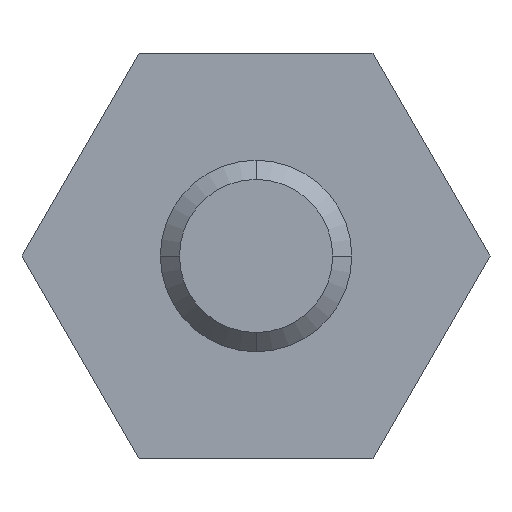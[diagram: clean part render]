
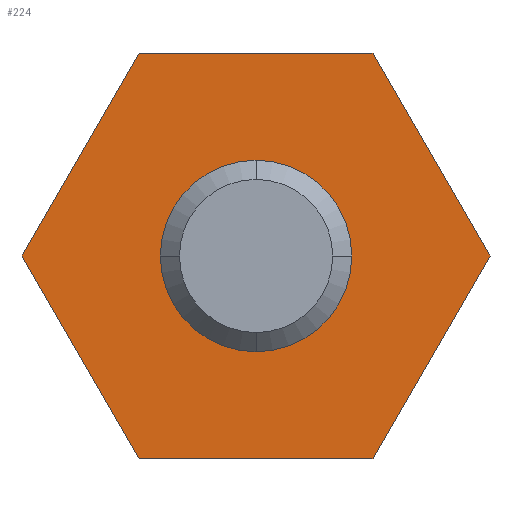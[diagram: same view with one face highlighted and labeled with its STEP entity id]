
A CAD part, front view. The second image highlights one B-rep face of the part: STEP entity #224.
In plain terms, the highlighted planar face has unit normal (0, -1, 0).
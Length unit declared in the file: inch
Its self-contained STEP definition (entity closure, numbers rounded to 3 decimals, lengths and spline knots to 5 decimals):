
#224=ADVANCED_FACE('',(#457,#458),#459,.F.);
#457=FACE_OUTER_BOUND('',#1215,.T.);
#458=FACE_BOUND('',#1216,.T.);
#459=PLANE('',#1217);
#1215=EDGE_LOOP('',(#1740,#1741,#1742,#1743,#1744,#1745));
#1216=EDGE_LOOP('',(#1746,#1747));
#1217=AXIS2_PLACEMENT_3D('',#1748,#1749,#1750);
#1740=ORIENTED_EDGE('',*,*,#2121,.F.);
#1741=ORIENTED_EDGE('',*,*,#2122,.F.);
#1742=ORIENTED_EDGE('',*,*,#2123,.F.);
#1743=ORIENTED_EDGE('',*,*,#2124,.F.);
#1744=ORIENTED_EDGE('',*,*,#2125,.F.);
#1745=ORIENTED_EDGE('',*,*,#2126,.F.);
#1746=ORIENTED_EDGE('',*,*,#2127,.F.);
#1747=ORIENTED_EDGE('',*,*,#2128,.F.);
#1748=CARTESIAN_POINT('',(-0.15149,-0.3937,0.0));
#1749=DIRECTION('',(-0.0,1.0,0.0));
#1750=DIRECTION('',(1.0,0.0,0.0));
#2121=EDGE_CURVE('',#2474,#2475,#2476,.T.);
#2122=EDGE_CURVE('',#2477,#2474,#2478,.T.);
#2123=EDGE_CURVE('',#2479,#2477,#2480,.T.);
#2124=EDGE_CURVE('',#2481,#2479,#2482,.T.);
#2125=EDGE_CURVE('',#2483,#2481,#2484,.T.);
#2126=EDGE_CURVE('',#2475,#2483,#2485,.T.);
#2127=EDGE_CURVE('',#2486,#2487,#2488,.T.);
#2128=EDGE_CURVE('',#2487,#2486,#2489,.T.);
#2474=VERTEX_POINT('',#3231);
#2475=VERTEX_POINT('',#3232);
#2476=LINE('',#3233,#3234);
#2477=VERTEX_POINT('',#3235);
#2478=LINE('',#3236,#3237);
#2479=VERTEX_POINT('',#3238);
#2480=LINE('',#3239,#3240);
#2481=VERTEX_POINT('',#3241);
#2482=LINE('',#3242,#3243);
#2483=VERTEX_POINT('',#3244);
#2484=LINE('',#3245,#3246);
#2485=LINE('',#3247,#3248);
#2486=VERTEX_POINT('',#3249);
#2487=VERTEX_POINT('',#3250);
#2488=CIRCLE('',#3251,0.05906);
#2489=CIRCLE('',#3252,0.05906);
#3231=CARTESIAN_POINT('',(-0.07222,-0.3937,-0.125));
#3232=CARTESIAN_POINT('',(-0.14438,-0.3937,0.0));
#3233=CARTESIAN_POINT('',(-0.07222,-0.3937,-0.125));
#3234=VECTOR('',#3521,0.14434);
#3235=CARTESIAN_POINT('',(0.07212,-0.3937,-0.125));
#3236=CARTESIAN_POINT('',(0.07212,-0.3937,-0.125));
#3237=VECTOR('',#3522,0.14434);
#3238=CARTESIAN_POINT('',(0.14429,-0.3937,0.0));
#3239=CARTESIAN_POINT('',(0.14429,-0.3937,0.0));
#3240=VECTOR('',#3523,0.14434);
#3241=CARTESIAN_POINT('',(0.07212,-0.3937,0.125));
#3242=CARTESIAN_POINT('',(0.07212,-0.3937,0.125));
#3243=VECTOR('',#3524,0.14434);
#3244=CARTESIAN_POINT('',(-0.07222,-0.3937,0.125));
#3245=CARTESIAN_POINT('',(-0.07222,-0.3937,0.125));
#3246=VECTOR('',#3525,0.14434);
#3247=CARTESIAN_POINT('',(-0.14438,-0.3937,0.0));
#3248=VECTOR('',#3526,0.14434);
#3249=CARTESIAN_POINT('',(-0.05906,-0.3937,0.0));
#3250=CARTESIAN_POINT('',(0.05906,-0.3937,0.0));
#3251=AXIS2_PLACEMENT_3D('',#3527,#3528,#3529);
#3252=AXIS2_PLACEMENT_3D('',#3530,#3531,#3532);
#3521=DIRECTION('',(-0.5,0.0,0.866));
#3522=DIRECTION('',(-1.0,0.0,0.0));
#3523=DIRECTION('',(-0.5,0.0,-0.866));
#3524=DIRECTION('',(0.5,0.0,-0.866));
#3525=DIRECTION('',(1.0,0.0,0.0));
#3526=DIRECTION('',(0.5,0.0,0.866));
#3527=CARTESIAN_POINT('',(0.,-0.3937,0.0));
#3528=DIRECTION('',(0.0,-1.0,0.0));
#3529=DIRECTION('',(-1.0,0.0,0.0));
#3530=CARTESIAN_POINT('',(0.,-0.3937,0.0));
#3531=DIRECTION('',(0.0,-1.0,0.0));
#3532=DIRECTION('',(1.0,0.0,0.0));
